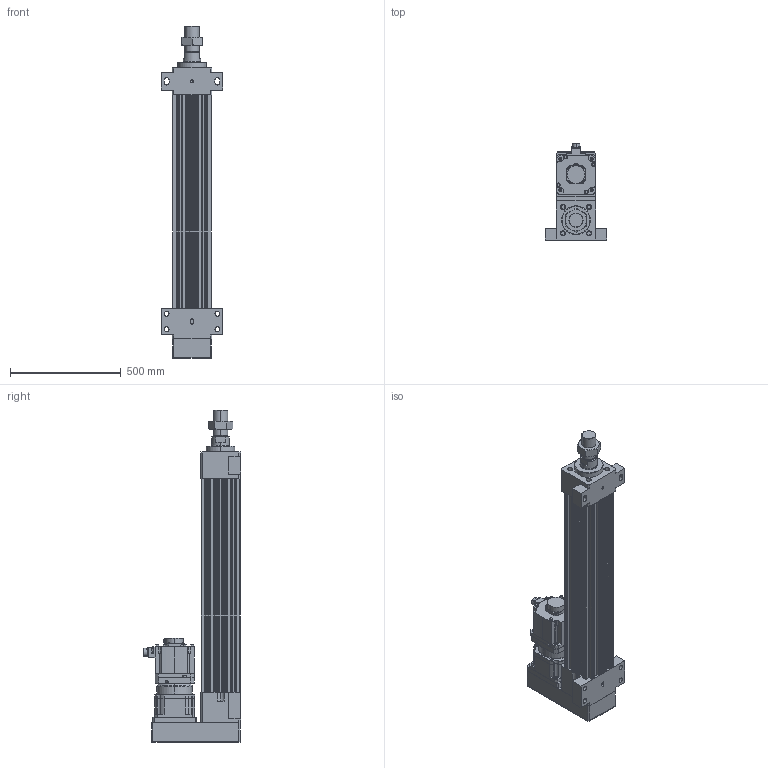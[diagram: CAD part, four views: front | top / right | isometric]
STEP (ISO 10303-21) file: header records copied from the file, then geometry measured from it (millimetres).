
FILE_DESCRIPTION (( 'STEP AP203' ), '1' );
FILE_NAME ('HES180HS-P650-W050G00-M-FFB.STEP', '2023-02-01T06:52:39', ( 'tms' ), ( '' ), 'SwSTEP 2.0', 'SolidWorks 2013', '' );
FILE_SCHEMA (( 'CONFIG_CONTROL_DESIGN' ));
Length unit declared in the file: millimetre
Products named in the file (9): HG-SR502; P0403600401; AB1801; M64X2.0P; AB180-003[HG-SR702B]; HES180-P650-G180-FFB; P1301600001; HES180HS-P650-W050G00-M-FFB; HES180 ROD M ST650
Assembly tree (8 placements, depth 3):
  HES180HS-P650-W050G00-M-FFB
    HES180-P650-G180-FFB
    HES180 ROD M ST650
    M64X2.0P
    AB180-003[HG-SR702B]
      AB1801
      P1301600001
      P0403600401
    HG-SR502
Bounding box: 280 x 438.85 x 1502 mm (x, y, z)
Volume: 32440129.4 mm3; surface area: 2886544.2 mm2
Topology: 4 solids, 19 shells, 1446 faces, 3761 edges, 2443 vertices
Faces by surface type: cylinder 668, plane 567, cone 144, bspline 63, torus 4
Entity records: 53114 total; most frequent: CARTESIAN_POINT 16078, DIRECTION 7777, ORIENTED_EDGE 7426, EDGE_CURVE 3737, AXIS2_PLACEMENT_3D 2922, VERTEX_POINT 2443, LINE 1933, VECTOR 1933
